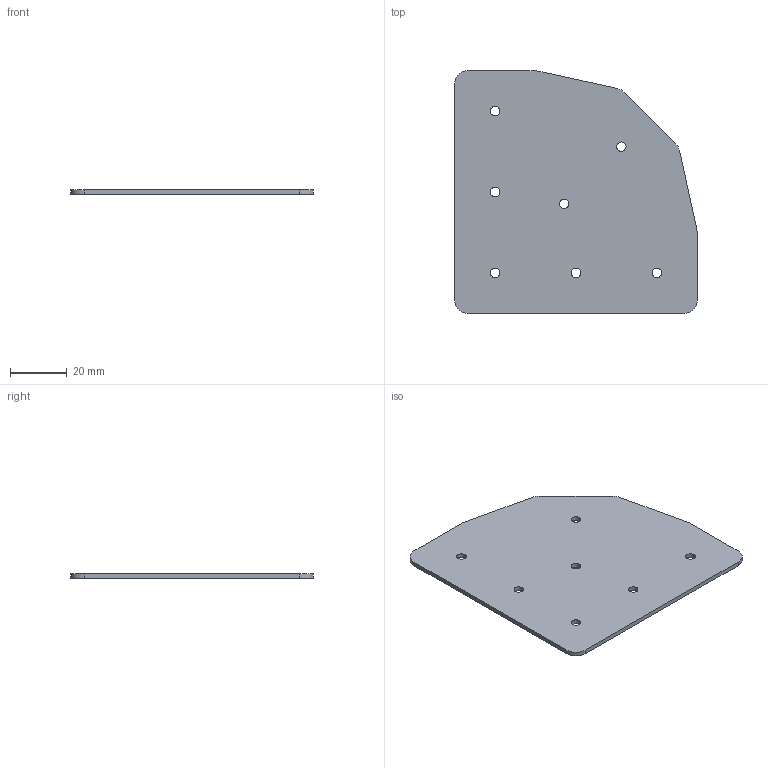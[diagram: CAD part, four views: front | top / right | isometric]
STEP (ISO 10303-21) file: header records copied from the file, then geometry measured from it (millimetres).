
FILE_DESCRIPTION (( 'STEP AP203' ), '1' );
FILE_NAME ('FDPGK-S_1-2C9045.step', '2019-09-11T19:46:57', ( 'ydmin' ), ( '' ), 'SwSTEP 2.0', 'SolidWorks 2017', '' );
FILE_SCHEMA (( 'CONFIG_CONTROL_DESIGN' ));
Length unit declared in the file: inch
Products named in the file (1): FDPGK-S_1-2C9045
Bounding box: 85.72 x 85.72 x 1.59 mm (x, y, z)
Volume: 10407.5 mm3; surface area: 13723.6 mm2
Topology: 1 solids, 1 shells, 30 faces, 84 edges, 56 vertices
Faces by surface type: cylinder 21, plane 9
Entity records: 1097 total; most frequent: DIRECTION 188, CARTESIAN_POINT 171, ORIENTED_EDGE 168, EDGE_CURVE 84, AXIS2_PLACEMENT_3D 73, VERTEX_POINT 56, EDGE_LOOP 44, CIRCLE 42
